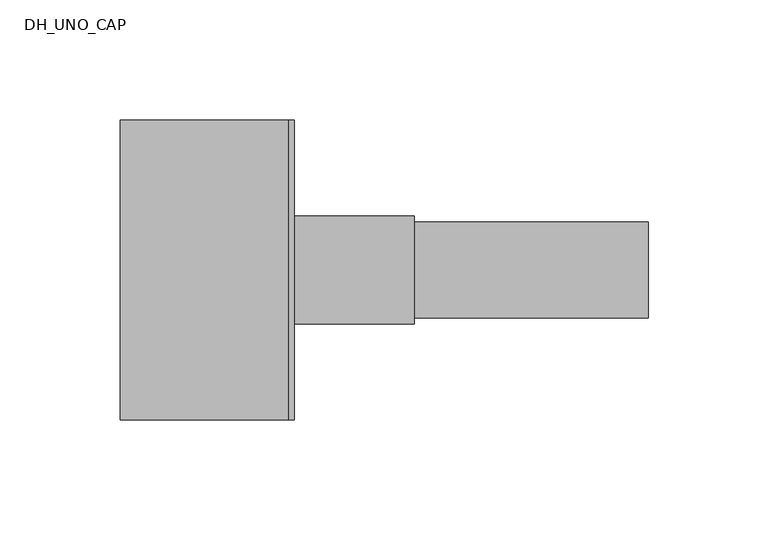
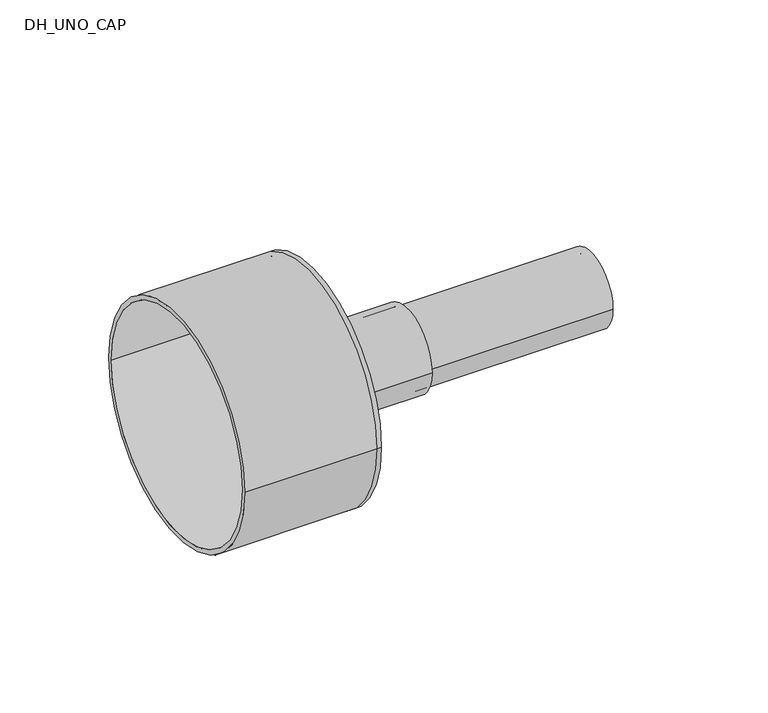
"""IFC4 building model written with IfcOpenShell, lengths in millimetres: pipe fitting geometry, DH_UNO_CAP : RAUVITHERM UNO 11 Heating - Rubber Cap."""

from ifc_helpers import new_model, si_unit, point, frame, origin, origin_2d, place, context, project, spatial, polyline, circle_curve, trimmed, segment, composite_curve, outline, extrude, source, transform, mapped, element, save
from ifc_brep_helpers import plane_surface, cylinder_surface, revolved_surface, advanced_brep


def dh_uno_cap_746ec36d(model_context):
    return source(origin(), model_context, "Body", "SolidModel", [
        extrude(outline(composite_curve([segment(trimmed(circle_curve(origin_2d(), 20.0), [point((-20.0, 0.0))], [point((20.0, 0.0))], False, "CARTESIAN"), True, "CONTINUOUS"), segment(trimmed(circle_curve(origin_2d(), 20.0), [point((20.0, 0.0))], [point((-20.0, 0.0))], False, "CARTESIAN"), True, "CONTINUOUS")], self_intersect=False), holes=[composite_curve([segment(trimmed(circle_curve(origin_2d(), 16.3), [point((-16.3, 0.0))], [point((16.3, 0.0))], True, "CARTESIAN"), True, "CONTINUOUS"), segment(trimmed(circle_curve(origin_2d(), 16.3), [point((16.3, 0.0))], [point((-16.3, 0.0))], True, "CARTESIAN"), True, "CONTINUOUS")], self_intersect=False)]), frame((0.0, 0.0, 0.0), z_axis=(1.0, 0.0, 0.0), x_axis=(0.0, 1.0, 0.0)), (0.0, 0.0, 1.0), 150.0),
        advanced_brep(
        [(-70.0, -62.5, 0.0), (-70.0, 62.5, 0.0), (-70.0, -60.0, 0.0), (-70.0, 60.0, 0.0), (0.0, -60.0, 0.0), (0.0, 60.0, 0.0), (0.0, -62.5, 0.0), (0.0, 62.5, 0.0), (0.0, 20.0, 0.0), (0.0, -20.0, 0.0), (2.5, -62.5, 0.0), (2.5, 62.5, 0.0), (2.5, -20.0, 0.0), (2.5, 20.0, 0.0)],
        [
            (0, 1, circle_curve(frame((-70.0, 0.0, 0.0), z_axis=(-1.0, 0.0, 0.0), x_axis=(0.0, 1.0, 0.0)), 62.5)),
            (1, 0, circle_curve(frame((-70.0, 0.0, 0.0), z_axis=(-1.0, 0.0, 0.0), x_axis=(0.0, 1.0, 0.0)), 62.5)),
            (2, 3, circle_curve(frame((-70.0, 0.0, 0.0), z_axis=(1.0, 0.0, 0.0), x_axis=(0.0, 1.0, 0.0)), 60.0)),
            (3, 2, circle_curve(frame((-70.0, 0.0, 0.0), z_axis=(1.0, 0.0, 0.0), x_axis=(0.0, 1.0, 0.0)), 60.0)),
            (2, 4),
            (4, 5, circle_curve(frame((0.0, 0.0, 0.0), z_axis=(1.0, 0.0, 0.0), x_axis=(0.0, 1.0, 0.0)), 60.0)),
            (5, 3),
            (5, 4, circle_curve(frame((0.0, 0.0, 0.0), z_axis=(1.0, 0.0, 0.0), x_axis=(0.0, 1.0, 0.0)), 60.0)),
            (0, 6),
            (6, 7, circle_curve(frame((0.0, 0.0, 0.0), z_axis=(-1.0, 0.0, 0.0), x_axis=(0.0, 1.0, 0.0)), 62.5)),
            (7, 1),
            (7, 6, circle_curve(frame((0.0, 0.0, 0.0), z_axis=(-1.0, 0.0, 0.0), x_axis=(0.0, 1.0, 0.0)), 62.5)),
            (8, 9, circle_curve(frame((0.0, 0.0, 0.0), z_axis=(1.0, 0.0, 0.0), x_axis=(0.0, 1.0, 0.0)), 20.0)),
            (9, 8, circle_curve(frame((0.0, 0.0, 0.0), z_axis=(1.0, 0.0, 0.0), x_axis=(0.0, 1.0, 0.0)), 20.0)),
            (10, 11, circle_curve(frame((2.5, 0.0, 0.0), z_axis=(1.0, 0.0, 0.0), x_axis=(0.0, 1.0, 0.0)), 62.5)),
            (11, 10, circle_curve(frame((2.5, 0.0, 0.0), z_axis=(1.0, 0.0, 0.0), x_axis=(0.0, 1.0, 0.0)), 62.5)),
            (12, 13, circle_curve(frame((2.5, 0.0, 0.0), z_axis=(-1.0, 0.0, 0.0), x_axis=(0.0, 1.0, 0.0)), 20.0)),
            (13, 12, circle_curve(frame((2.5, 0.0, 0.0), z_axis=(-1.0, 0.0, 0.0), x_axis=(0.0, 1.0, 0.0)), 20.0)),
            (11, 7),
            (6, 10),
            (8, 13),
            (12, 9),
        ],
        [
            plane_surface(frame((-70.0, 0.0, 0.0), z_axis=(-1.0, 0.0, 0.0), x_axis=(0.0, 0.0, 1.0))),
            revolved_surface(polyline([(0.0, 60.0, 0.0), (-70.0, 60.0, 0.0)]), (-70.0, 0.0, 0.0), (1.0, 0.0, 0.0)),
            cylinder_surface(frame((-70.0, 0.0, 0.0), z_axis=(-1.0, 0.0, 0.0), x_axis=(0.0, 1.0, 0.0)), 62.5),
            plane_surface(frame((0.0, 0.0, 0.0), z_axis=(-1.0, 0.0, 0.0), x_axis=(0.0, 0.0, 1.0))),
            plane_surface(frame((2.5, 0.0, 0.0), z_axis=(1.0, 0.0, 0.0), x_axis=(0.0, 0.0, 1.0))),
            cylinder_surface(frame((0.0, 0.0, 0.0), z_axis=(-1.0, 0.0, 0.0), x_axis=(0.0, 1.0, 0.0)), 62.5),
            revolved_surface(polyline([(0.0, 20.0, 0.0), (2.5, 20.0, 0.0)]), (0.0, 0.0, 0.0), (-1.0, 0.0, 0.0)),
        ],
        [
            (0, [[1, 2], [3, 4]]),
            (1, [[-3, 5, 6, 7]]),
            (1, [[-4, -7, 8, -5]]),
            (2, [[-1, 9, 10, 11]]),
            (2, [[-2, -11, 12, -9]]),
            (3, [[-6, -8], [13, 14]]),
            (4, [[15, 16], [17, 18]]),
            (5, [[-16, 19, -10, 20]]),
            (5, [[-15, -20, -12, -19]]),
            (6, [[21, -17, 22, -13]]),
            (6, [[-21, -14, -22, -18]]),
        ],
    ),
        extrude(outline(composite_curve([segment(trimmed(circle_curve(origin_2d(), 22.5), [point((-22.5, 0.0))], [point((22.5, 0.0))], False, "CARTESIAN"), True, "CONTINUOUS"), segment(trimmed(circle_curve(origin_2d(), 22.5), [point((22.5, 0.0))], [point((-22.5, 0.0))], False, "CARTESIAN"), True, "CONTINUOUS")], self_intersect=False), holes=[composite_curve([segment(trimmed(circle_curve(origin_2d(), 20.0), [point((-20.0, 0.0))], [point((20.0, 0.0))], True, "CARTESIAN"), True, "CONTINUOUS"), segment(trimmed(circle_curve(origin_2d(), 20.0), [point((20.0, 0.0))], [point((-20.0, 0.0))], True, "CARTESIAN"), True, "CONTINUOUS")], self_intersect=False)]), frame((2.5, 0.0, 0.0), z_axis=(1.0, 0.0, 0.0), x_axis=(0.0, 1.0, 0.0)), (0.0, 0.0, 1.0), 50.0),
    ])


if __name__ == "__main__":
    model = new_model("IFC4")
    model_context = context("Model", 3, world=origin())
    ifc_project = project(units=[si_unit("LENGTHUNIT", "METRE", prefix="MILLI")], contexts=[model_context])
    site = spatial("IfcSite", under=ifc_project)
    building = spatial("IfcBuilding", under=site)
    placement = place(None, origin())
    dh_uno_cap_shape = dh_uno_cap_746ec36d(model_context)
    element("IfcPipeFitting", 1, ObjectType="DH_UNO_CAP : RAUVITHERM UNO 11 Heating - Rubber Cap", at=placement, inside=building, context=model_context, shape_type="MappedRepresentation", body=[
        mapped(dh_uno_cap_shape, transform((0.0, 0.0, 0.0), x_axis=(1.0, 0.0, 0.0), y_axis=(0.0, 1.0, 0.0), z_axis=(0.0, 0.0, 1.0))),
    ])
    save(model, "model.ifc")
